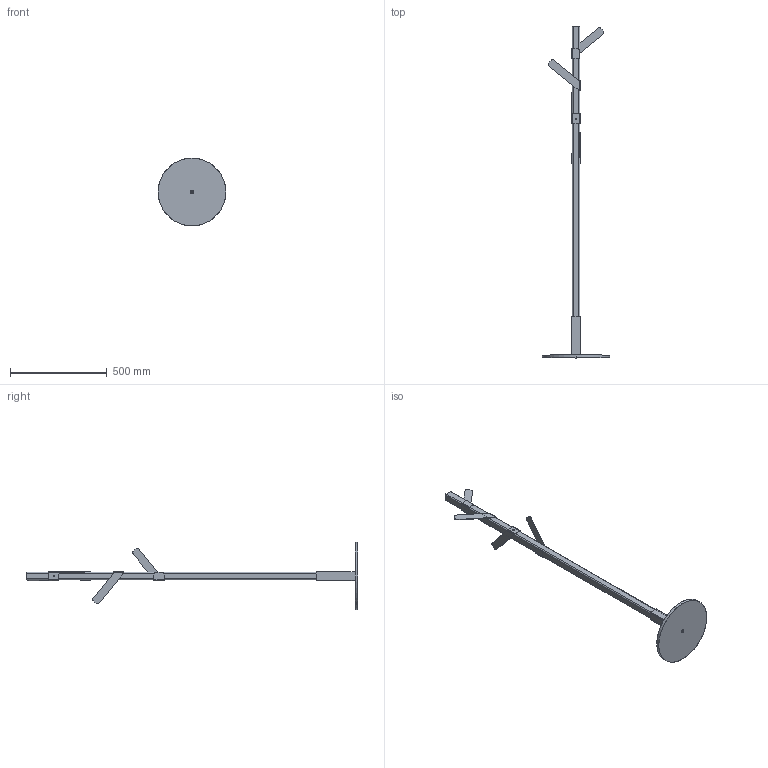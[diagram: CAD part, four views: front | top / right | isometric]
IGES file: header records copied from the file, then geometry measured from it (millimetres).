
Start section: SolidWorks IGES file using analytic representation for surfaces
Global section: file name: E:\IGS\SIE_01.IGS; native system: SolidWorks 2015; preprocessor: SolidWorks 2015; author: Pol; date: 160322.172621; units: millimetre
Bounding box: 350 x 1715 x 350 mm (x, y, z)
Surface area: 653319.4 mm2 (no closed solid volume)
Topology: 0 solids, 0 shells, 167 faces, 2192 edges, 2192 vertices
Faces by surface type: bspline 87, revolution 80
